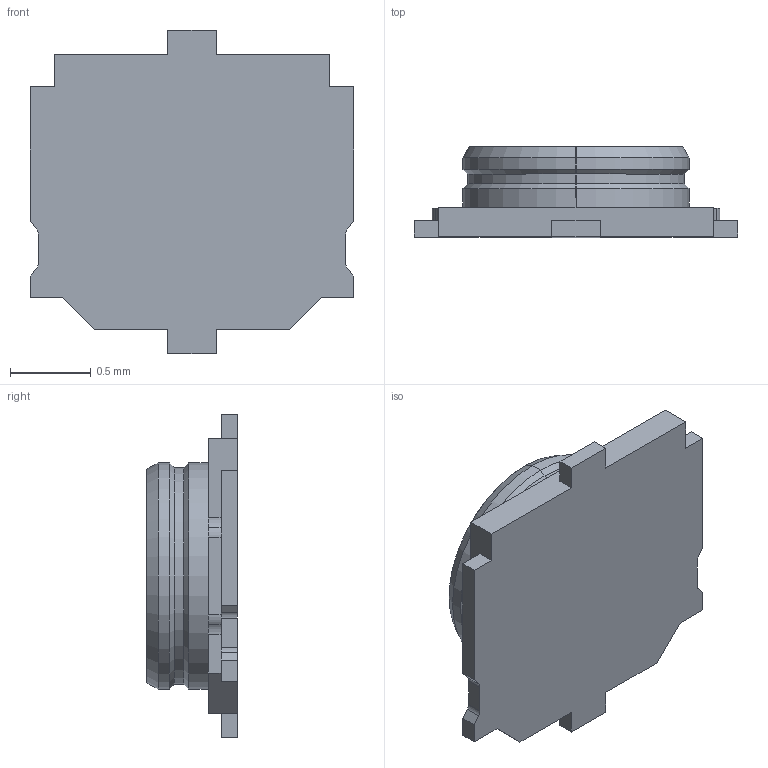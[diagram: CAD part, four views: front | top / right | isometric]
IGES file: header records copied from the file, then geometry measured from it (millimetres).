
Start section: SolidWorks IGES file using analytic representation for surfaces
Global section: file name: C:\Users\3DCAD\Desktop\RECEモデル　（ファイル名修正）\8 MHF 5\20566-001E-01C RECE ASS'Y IGES R6 ALL.IGS; native system: SolidWorks 2017; preprocessor: SolidWorks 2017; author: 3dcad; date: 180425.170047; units: millimetre
Bounding box: 2 x 0.56 x 2 mm (x, y, z)
Surface area: 11.1 mm2 (no closed solid volume)
Topology: 0 solids, 0 shells, 70 faces, 436 edges, 432 vertices
Faces by surface type: bspline 40, revolution 30
